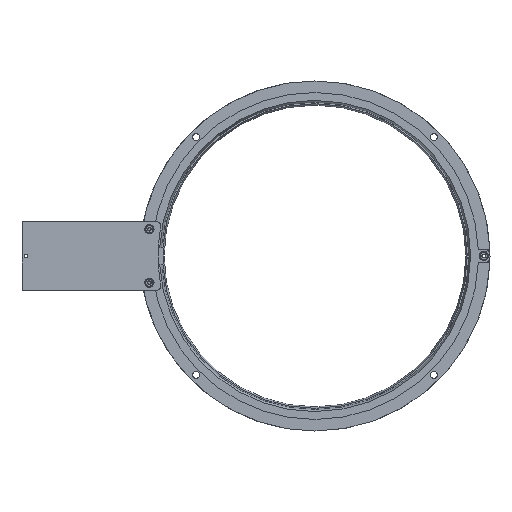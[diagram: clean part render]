
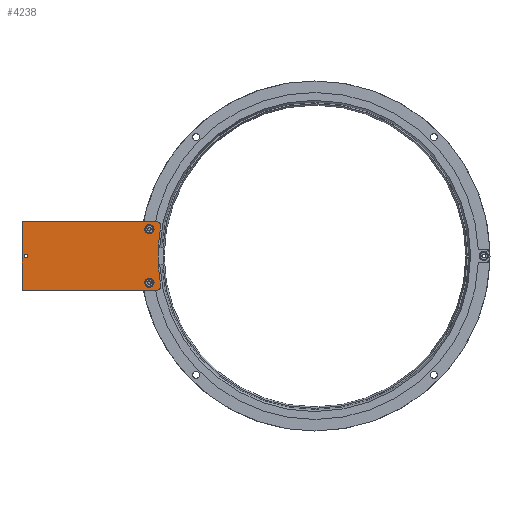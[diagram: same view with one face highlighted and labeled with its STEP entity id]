
A CAD part, top view. The second image highlights one B-rep face of the part: STEP entity #4238.
In plain terms, the highlighted planar face has unit normal (0, 0, 1).
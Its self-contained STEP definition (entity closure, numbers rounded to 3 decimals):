
#74 = VERTEX_POINT ( 'NONE', #3474 ) ;
#77 = CARTESIAN_POINT ( 'NONE',  ( 62.328, -38.141, 28.198 ) ) ;
#104 = CARTESIAN_POINT ( 'NONE',  ( 142.228, -25.441, 28.198 ) ) ;
#118 = EDGE_CURVE ( 'NONE', #74, #570, #2440, .T. ) ;
#266 = AXIS2_PLACEMENT_3D ( 'NONE', #1858, #5793, #5832 ) ;
#316 = EDGE_CURVE ( 'NONE', #4982, #2682, #4110, .T. ) ;
#329 = CARTESIAN_POINT ( 'NONE',  ( 67.761, -11.558, 28.198 ) ) ;
#362 = EDGE_CURVE ( 'NONE', #2682, #4982, #1413, .T. ) ;
#386 = CIRCLE ( 'NONE', #4868, 2.2 ) ;
#570 = VERTEX_POINT ( 'NONE', #4999 ) ;
#579 = ORIENTED_EDGE ( 'NONE', *, *, #3701, .F. ) ;
#592 = EDGE_LOOP ( 'NONE', ( #5080, #3663 ) ) ;
#619 = DIRECTION ( 'NONE',  ( -1., 0., 0. ) ) ;
#630 = DIRECTION ( 'NONE',  ( 1., 0., 0. ) ) ;
#666 = DIRECTION ( 'NONE',  ( -1., 0., 0. ) ) ;
#679 = AXIS2_PLACEMENT_3D ( 'NONE', #4254, #3821, #1769 ) ;
#720 = DIRECTION ( 'NONE',  ( -1., 0., 0. ) ) ;
#739 = ORIENTED_EDGE ( 'NONE', *, *, #1150, .F. ) ;
#758 = VERTEX_POINT ( 'NONE', #3862 ) ;
#937 = EDGE_LOOP ( 'NONE', ( #2307, #3854 ) ) ;
#942 = PLANE ( 'NONE',  #3079 ) ;
#953 = DIRECTION ( 'NONE',  ( -1., 0., 0. ) ) ;
#1150 = EDGE_CURVE ( 'NONE', #6023, #3073, #386, .T. ) ;
#1295 = CARTESIAN_POINT ( 'NONE',  ( 1.728, -41.691, 28.198 ) ) ;
#1310 = AXIS2_PLACEMENT_3D ( 'NONE', #5751, #3275, #630 ) ;
#1358 = EDGE_CURVE ( 'NONE', #5191, #5807, #2772, .T. ) ;
#1393 = VERTEX_POINT ( 'NONE', #329 ) ;
#1413 = CIRCLE ( 'NONE', #1310, 0.8 ) ;
#1446 = DIRECTION ( 'NONE',  ( 1., 0., 0. ) ) ;
#1503 = CIRCLE ( 'NONE', #4738, 75.75 ) ;
#1604 = DIRECTION ( 'NONE',  ( 0., 0., 1. ) ) ;
#1769 = DIRECTION ( 'NONE',  ( -1., 0., 0. ) ) ;
#1786 = EDGE_LOOP ( 'NONE', ( #739, #3342 ) ) ;
#1788 = DIRECTION ( 'NONE',  ( 0., 0., 1. ) ) ;
#1819 = AXIS2_PLACEMENT_3D ( 'NONE', #2725, #1788, #4792 ) ;
#1858 = CARTESIAN_POINT ( 'NONE',  ( 65.795, -39.691, 28.198 ) ) ;
#1893 = ORIENTED_EDGE ( 'NONE', *, *, #5390, .F. ) ;
#1897 = FACE_BOUND ( 'NONE', #1786, .T. ) ;
#1930 = DIRECTION ( 'NONE',  ( 1., 0., 0. ) ) ;
#2069 = EDGE_CURVE ( 'NONE', #3309, #5807, #5302, .T. ) ;
#2131 = AXIS2_PLACEMENT_3D ( 'NONE', #3088, #3022, #666 ) ;
#2283 = DIRECTION ( 'NONE',  ( -1., 0., 0. ) ) ;
#2307 = ORIENTED_EDGE ( 'NONE', *, *, #362, .T. ) ;
#2410 = FACE_BOUND ( 'NONE', #937, .T. ) ;
#2440 = CIRCLE ( 'NONE', #1819, 2.2 ) ;
#2551 = DIRECTION ( 'NONE',  ( 0., 0., 1. ) ) ;
#2655 = DIRECTION ( 'NONE',  ( 1., 0., 0. ) ) ;
#2682 = VERTEX_POINT ( 'NONE', #4122 ) ;
#2725 = CARTESIAN_POINT ( 'NONE',  ( 62.328, -12.741, 28.198 ) ) ;
#2772 = LINE ( 'NONE', #5634, #5443 ) ;
#2833 = CARTESIAN_POINT ( 'NONE',  ( 64.528, -38.141, 28.198 ) ) ;
#2849 = CIRCLE ( 'NONE', #5351, 2.2 ) ;
#2865 = CARTESIAN_POINT ( 'NONE',  ( 65.795, -11.191, 28.198 ) ) ;
#2956 = CARTESIAN_POINT ( 'NONE',  ( 60.128, -38.141, 28.198 ) ) ;
#2968 = CIRCLE ( 'NONE', #5040, 2. ) ;
#3022 = DIRECTION ( 'NONE',  ( 0., 0., 1. ) ) ;
#3055 = CARTESIAN_POINT ( 'NONE',  ( 1.728, -9.191, 28.198 ) ) ;
#3073 = VERTEX_POINT ( 'NONE', #2833 ) ;
#3079 = AXIS2_PLACEMENT_3D ( 'NONE', #6425, #3477, #1446 ) ;
#3088 = CARTESIAN_POINT ( 'NONE',  ( 62.328, -12.741, 28.198 ) ) ;
#3169 = CARTESIAN_POINT ( 'NONE',  ( 2.928, -25.441, 28.198 ) ) ;
#3274 = CARTESIAN_POINT ( 'NONE',  ( 67.761, -39.325, 28.198 ) ) ;
#3275 = DIRECTION ( 'NONE',  ( 0., 0., -1. ) ) ;
#3309 = VERTEX_POINT ( 'NONE', #3575 ) ;
#3342 = ORIENTED_EDGE ( 'NONE', *, *, #5400, .F. ) ;
#3398 = CIRCLE ( 'NONE', #2131, 2.2 ) ;
#3474 = CARTESIAN_POINT ( 'NONE',  ( 60.128, -12.741, 28.198 ) ) ;
#3477 = DIRECTION ( 'NONE',  ( 0., 0., -1. ) ) ;
#3523 = ORIENTED_EDGE ( 'NONE', *, *, #4587, .T. ) ;
#3554 = DIRECTION ( 'NONE',  ( -1., 0., 0. ) ) ;
#3575 = CARTESIAN_POINT ( 'NONE',  ( 1.728, -41.691, 28.198 ) ) ;
#3663 = ORIENTED_EDGE ( 'NONE', *, *, #4310, .F. ) ;
#3701 = EDGE_CURVE ( 'NONE', #758, #3309, #5366, .T. ) ;
#3702 = CARTESIAN_POINT ( 'NONE',  ( 65.795, -9.191, 28.198 ) ) ;
#3703 = DIRECTION ( 'NONE',  ( 0., 0., -1. ) ) ;
#3743 = CARTESIAN_POINT ( 'NONE',  ( 3.728, -25.441, 28.198 ) ) ;
#3821 = DIRECTION ( 'NONE',  ( 0., 0., 1. ) ) ;
#3854 = ORIENTED_EDGE ( 'NONE', *, *, #316, .T. ) ;
#3862 = CARTESIAN_POINT ( 'NONE',  ( 65.795, -41.691, 28.198 ) ) ;
#3995 = CARTESIAN_POINT ( 'NONE',  ( 62.328, -38.141, 28.198 ) ) ;
#4061 = ORIENTED_EDGE ( 'NONE', *, *, #6221, .T. ) ;
#4110 = CIRCLE ( 'NONE', #5365, 0.8 ) ;
#4122 = CARTESIAN_POINT ( 'NONE',  ( 4.528, -25.441, 28.198 ) ) ;
#4147 = EDGE_CURVE ( 'NONE', #4625, #5182, #5381, .T. ) ;
#4161 = ORIENTED_EDGE ( 'NONE', *, *, #4147, .F. ) ;
#4238 = ADVANCED_FACE ( 'NONE', ( #2410, #4417, #1897, #5386 ), #942, .F. ) ;
#4254 = CARTESIAN_POINT ( 'NONE',  ( 142.228, -25.441, 28.198 ) ) ;
#4310 = EDGE_CURVE ( 'NONE', #570, #74, #3398, .T. ) ;
#4377 = DIRECTION ( 'NONE',  ( 0., 1., 0. ) ) ;
#4412 = EDGE_LOOP ( 'NONE', ( #579, #4061, #4161, #1893, #3523, #5601, #5210 ) ) ;
#4417 = FACE_BOUND ( 'NONE', #592, .T. ) ;
#4432 = DIRECTION ( 'NONE',  ( 0., 0., 1. ) ) ;
#4587 = EDGE_CURVE ( 'NONE', #1393, #5191, #2968, .T. ) ;
#4625 = VERTEX_POINT ( 'NONE', #5444 ) ;
#4738 = AXIS2_PLACEMENT_3D ( 'NONE', #104, #2551, #3554 ) ;
#4792 = DIRECTION ( 'NONE',  ( -1., 0., 0. ) ) ;
#4868 = AXIS2_PLACEMENT_3D ( 'NONE', #3995, #4432, #953 ) ;
#4979 = VECTOR ( 'NONE', #720, 1000. ) ;
#4982 = VERTEX_POINT ( 'NONE', #3169 ) ;
#4999 = CARTESIAN_POINT ( 'NONE',  ( 64.528, -12.741, 28.198 ) ) ;
#5040 = AXIS2_PLACEMENT_3D ( 'NONE', #2865, #5384, #1930 ) ;
#5080 = ORIENTED_EDGE ( 'NONE', *, *, #118, .F. ) ;
#5182 = VERTEX_POINT ( 'NONE', #3274 ) ;
#5191 = VERTEX_POINT ( 'NONE', #3702 ) ;
#5193 = CARTESIAN_POINT ( 'NONE',  ( 1.728, -41.691, 28.198 ) ) ;
#5210 = ORIENTED_EDGE ( 'NONE', *, *, #2069, .F. ) ;
#5302 = LINE ( 'NONE', #1295, #5353 ) ;
#5351 = AXIS2_PLACEMENT_3D ( 'NONE', #77, #1604, #619 ) ;
#5353 = VECTOR ( 'NONE', #4377, 1000. ) ;
#5359 = CIRCLE ( 'NONE', #266, 2. ) ;
#5365 = AXIS2_PLACEMENT_3D ( 'NONE', #3743, #3703, #2655 ) ;
#5366 = LINE ( 'NONE', #5193, #4979 ) ;
#5381 = CIRCLE ( 'NONE', #679, 75.75 ) ;
#5384 = DIRECTION ( 'NONE',  ( 0., 0., 1. ) ) ;
#5386 = FACE_OUTER_BOUND ( 'NONE', #4412, .T. ) ;
#5390 = EDGE_CURVE ( 'NONE', #1393, #4625, #1503, .T. ) ;
#5400 = EDGE_CURVE ( 'NONE', #3073, #6023, #2849, .T. ) ;
#5443 = VECTOR ( 'NONE', #2283, 1000. ) ;
#5444 = CARTESIAN_POINT ( 'NONE',  ( 66.478, -25.441, 28.198 ) ) ;
#5601 = ORIENTED_EDGE ( 'NONE', *, *, #1358, .T. ) ;
#5634 = CARTESIAN_POINT ( 'NONE',  ( 1.728, -9.191, 28.198 ) ) ;
#5751 = CARTESIAN_POINT ( 'NONE',  ( 3.728, -25.441, 28.198 ) ) ;
#5793 = DIRECTION ( 'NONE',  ( 0., 0., 1. ) ) ;
#5807 = VERTEX_POINT ( 'NONE', #3055 ) ;
#5832 = DIRECTION ( 'NONE',  ( 1., 0., 0. ) ) ;
#6023 = VERTEX_POINT ( 'NONE', #2956 ) ;
#6221 = EDGE_CURVE ( 'NONE', #758, #5182, #5359, .T. ) ;
#6425 = CARTESIAN_POINT ( 'NONE',  ( 1.728, -41.691, 28.198 ) ) ;
